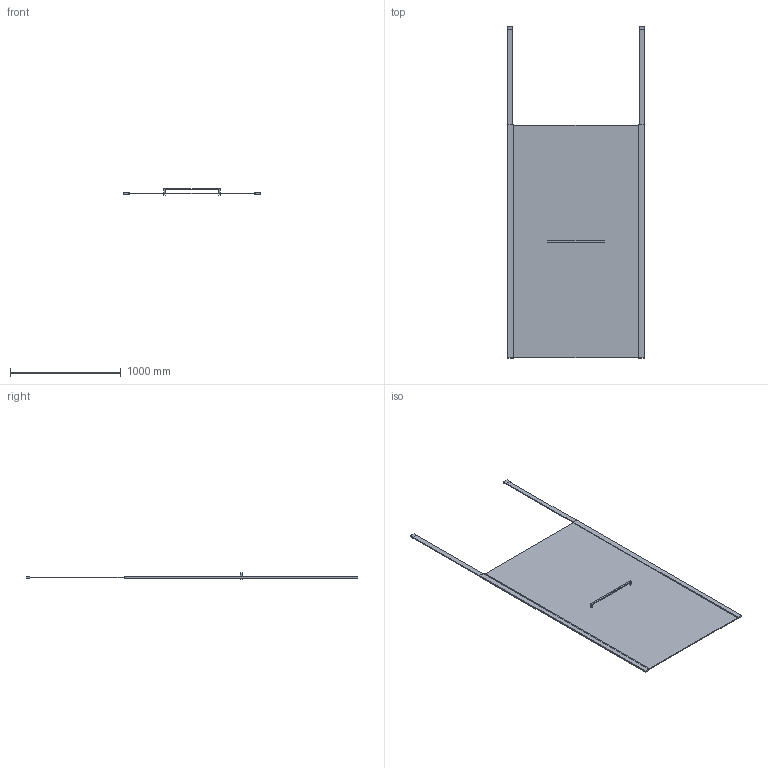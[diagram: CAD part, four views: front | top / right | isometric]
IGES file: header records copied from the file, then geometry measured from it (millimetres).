
Start section: SolidWorks IGES file using analytic representation for surfaces
Global section: file name: D:\Users\M.Szymanski\Desktop\Kabiny\PII_ALT2\03. do przegrania\PII_ALTIIa_120_wspornik pionowy_K3D.IGS; native system: SolidWorks 2011; preprocessor: SolidWorks 2011; author: M.Szymanski; date: 181003.110044; units: millimetre
Bounding box: 1239.8 x 3000 x 54.5 mm (x, y, z)
Surface area: 5735599.2 mm2 (no closed solid volume)
Topology: 0 solids, 0 shells, 61 faces, 396 edges, 528 vertices
Faces by surface type: bspline 61
